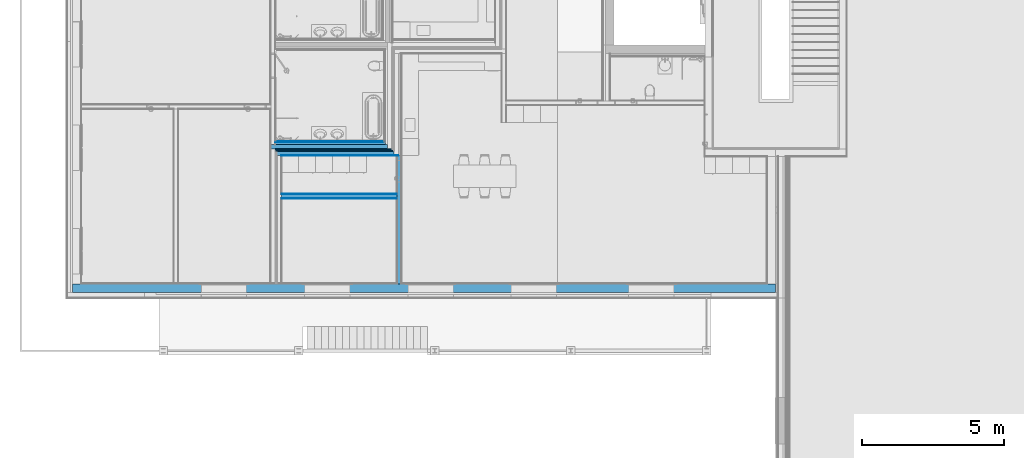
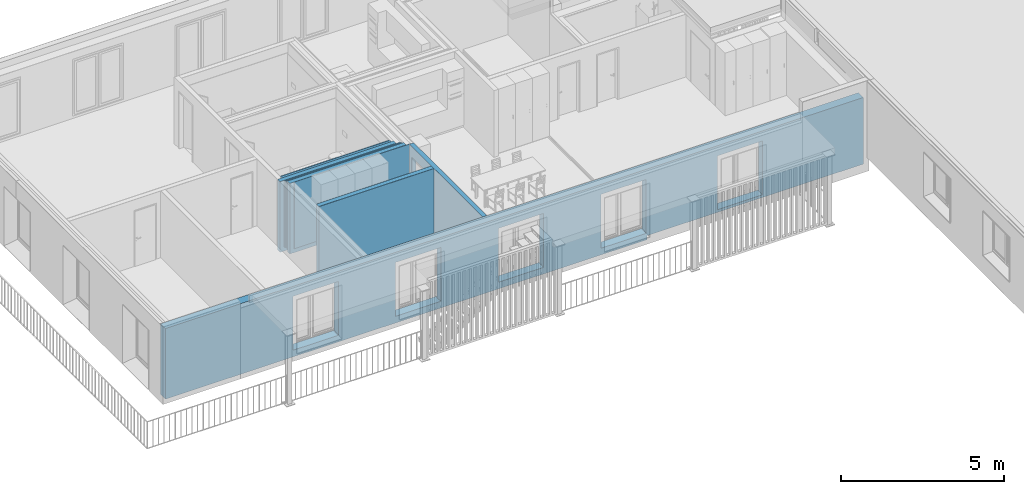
# One storey, part 5 of 34: 14 building element parts, 6 openings, 6 elements without a shape of their own.
"""IFC4 building model written with IfcOpenShell, lengths in millimetres."""

import ifcopenshell
import ifcopenshell.guid

model = None  # the IFC model being written
_history = None  # IfcOwnerHistory: only IFC2X3 demands one
_inside = {}  # id of a spatial element -> (the spatial element, [elements in it])
_under = {}  # id of a project, library or spatial element -> (it, [spatial elements below it])
_declared = {}  # id of a project -> (the project, [libraries it declares])
_typed = {}  # id of a type object -> (the type object, [elements of that type])
_made_of = {}  # id of a material, layer set ... -> (it, [elements and type objects made of it])


def new_model(schema):
    """Start an empty IFC model of exactly this schema.

    Asked for "IFC4X3", IfcOpenShell would pick the latest addendum, in which some entities
    have other attributes; the version numbers below select the first issue.
    IFC2X3 requires an IfcOwnerHistory on every rooted entity: one is made here for all.
    """
    global model, _history
    if schema == "IFC4X3":
        model = ifcopenshell.file(schema_version=(4, 3, 0, 0))
    else:
        model = ifcopenshell.file(schema=schema)
    _inside.clear()
    _under.clear()
    _declared.clear()
    _typed.clear()
    _made_of.clear()
    _history = None
    if model.schema == "IFC2X3":
        org = make("IfcOrganization", Name="unknown")
        user = make(
            "IfcPersonAndOrganization",
            ThePerson=make("IfcPerson", FamilyName="unknown"),
            TheOrganization=org,
        )
        app = make(
            "IfcApplication",
            ApplicationDeveloper=org,
            Version="unknown",
            ApplicationFullName="unknown",
            ApplicationIdentifier="unknown",
        )
        _history = make(
            "IfcOwnerHistory",
            OwningUser=user,
            OwningApplication=app,
            ChangeAction="ADDED",
            CreationDate=0,
        )
    return model


def make(cls, **values):
    """One entity of the class cls with the attributes given. An attribute that is None is left unset."""
    return model.create_entity(
        cls, **{name: value for name, value in values.items() if value is not None}
    )


def entity(cls, *values):
    """Any entity or typed value of the class cls, its attributes in the order of the schema. None: left unset."""
    e = model.create_entity(cls)
    for i, value in enumerate(values):
        if value is not None:
            e[i] = value
    return e


def rooted(cls, **values):
    """An entity with a GlobalId (a new one), such as an element, a storey or a relation."""
    return make(cls, GlobalId=ifcopenshell.guid.new(), OwnerHistory=_history, **values)


def si_unit(unit_type, name, prefix=None):
    """IfcSIUnit, for example si_unit("LENGTHUNIT", "METRE", prefix="MILLI")."""
    return make("IfcSIUnit", UnitType=unit_type, Prefix=prefix, Name=name)


def converted_unit(unit_type, name, factor, base, dimensions=None, offset=None):
    """IfcConversionBasedUnit, such as the inch: factor (a typed value) times the base unit."""
    return make(
        "IfcConversionBasedUnit"
        if offset is None
        else "IfcConversionBasedUnitWithOffset",
        ConversionOffset=offset,
        Dimensions=None
        if dimensions is None
        else entity("IfcDimensionalExponents", *dimensions),
        UnitType=unit_type,
        Name=name,
        ConversionFactor=make(
            "IfcMeasureWithUnit", ValueComponent=factor, UnitComponent=base
        ),
    )


def derived_unit(unit_type, elements):
    """IfcDerivedUnit: a product of units, each with its exponent."""
    return make(
        "IfcDerivedUnit",
        Elements=[
            make("IfcDerivedUnitElement", Unit=unit, Exponent=power)
            for unit, power in elements
        ],
        UnitType=unit_type,
    )


def assignment(units):
    """IfcUnitAssignment: the units of a project."""
    return None if units is None else make("IfcUnitAssignment", Units=units)


def point(xyz):
    """IfcCartesianPoint."""
    return None if xyz is None else make("IfcCartesianPoint", Coordinates=xyz)


def direction(xyz):
    """IfcDirection."""
    return None if xyz is None else make("IfcDirection", DirectionRatios=xyz)


def frame(location, z_axis=None, x_axis=None):
    """IfcAxis2Placement3D, a coordinate frame: its origin and axes. An axis left out is left unset."""
    return make(
        "IfcAxis2Placement3D",
        Location=point(location),
        Axis=direction(z_axis),
        RefDirection=direction(x_axis),
    )


def origin_with_axes():
    """The frame at (0, 0, 0) with the z axis (0, 0, 1) and the x axis (1, 0, 0) written out."""
    return frame((0.0, 0.0, 0.0), z_axis=(0.0, 0.0, 1.0), x_axis=(1.0, 0.0, 0.0))


def place(relative_to, where):
    """IfcLocalPlacement: puts the frame where relative to a parent placement (None: the world)."""
    return make(
        "IfcLocalPlacement", PlacementRelTo=relative_to, RelativePlacement=where
    )


def context(
    kind, dimensions, precision=None, world=None, true_north=None, identifier=None
):
    """IfcGeometricRepresentationContext, for example the 3D "Model" context."""
    return make(
        "IfcGeometricRepresentationContext",
        ContextIdentifier=identifier,
        ContextType=kind,
        CoordinateSpaceDimension=dimensions,
        Precision=precision,
        WorldCoordinateSystem=world,
        TrueNorth=true_north,
    )


def subcontext(parent, identifier, kind, view, scale=None):
    """IfcGeometricRepresentationSubContext, for example "Body" below "Model"."""
    return make(
        "IfcGeometricRepresentationSubContext",
        ContextIdentifier=identifier,
        ContextType=kind,
        ParentContext=parent,
        TargetScale=scale,
        TargetView=view,
    )


def project(units=None, contexts=None):
    """IfcProject with its units and contexts."""
    return rooted(
        "IfcProject",
        Name="project",
        RepresentationContexts=contexts,
        UnitsInContext=assignment(units),
    )


def spatial(cls, under=None, at=None, **own):
    """A site, building, storey or space (cls), placed at a placement, below another one or the project."""
    s = rooted(cls, ObjectPlacement=at, **own)
    if under is not None:
        _under.setdefault(under.id(), (under, []))[1].append(s)
    return s


def point_list(points):
    """IfcCartesianPointList2D or 3D."""
    cls = (
        "IfcCartesianPointList2D" if len(points[0]) == 2 else "IfcCartesianPointList3D"
    )
    return make(cls, CoordList=points)


def polygons(points, faces, closed=None, point_numbers=None):
    """IfcPolygonalFaceSet: a face is its outer loop, then its inner loops; points numbered from 1."""
    made = []
    for loops in faces:
        if len(loops) == 1:
            made.append(make("IfcIndexedPolygonalFace", CoordIndex=loops[0]))
        else:
            made.append(
                make(
                    "IfcIndexedPolygonalFaceWithVoids",
                    CoordIndex=loops[0],
                    InnerCoordIndices=loops[1:],
                )
            )
    return make(
        "IfcPolygonalFaceSet",
        Coordinates=point_list(points),
        Closed=closed,
        Faces=made,
        PnIndex=point_numbers,
    )


def shape(context_of_items, identifier, shape_type, items):
    """IfcShapeRepresentation: the items that make up one representation, for example the "Body"."""
    return make(
        "IfcShapeRepresentation",
        ContextOfItems=context_of_items,
        RepresentationIdentifier=identifier,
        RepresentationType=shape_type,
        Items=items,
    )


def material(Name=None, Category=None):
    """IfcMaterial."""
    return make("IfcMaterial", Name=Name, Category=Category)


def made_of(thing, what):
    """Note that an element or type object is made of a material, layer set ...; save() writes the relation."""
    if what is not None:
        _made_of.setdefault(what.id(), (what, []))[1].append(thing)
    return thing


def type_object(cls, material=None, **own):
    """A type object (cls), such as IfcWallType, which elements share."""
    return made_of(rooted(cls, **own), material)


def element(
    cls,
    number,
    at=None,
    inside=None,
    cuts=None,
    type_object=None,
    material=None,
    context=None,
    identifier="Body",
    shape_type=None,
    held_by="IfcProductDefinitionShape",
    body=None,
    shapes=None,
    **own,
):
    """One element of the class cls, such as IfcWall. Its Tag is "e" and its number.

    at: its placement. inside: the storey or other place that contains it. cuts: it is an
    opening in that element (IfcRelVoidsElement). A single representation is given by context,
    identifier, shape_type and body (its items); several are given by shapes. held_by: the class
    of the entity that holds the representations. save() writes the other relations.
    """
    e = rooted(cls, Tag="e%d" % number, ObjectPlacement=at, **own)
    if body is not None:
        shapes = [shape(context, identifier, shape_type, body)]
    if shapes is not None:
        e.Representation = make(held_by, Representations=shapes)
    if inside is not None:
        _inside.setdefault(inside.id(), (inside, []))[1].append(e)
    if cuts is not None:
        rooted(
            "IfcRelVoidsElement", RelatingBuildingElement=cuts, RelatedOpeningElement=e
        )
    if type_object is not None:
        _typed.setdefault(type_object.id(), (type_object, []))[1].append(e)
    return made_of(e, material)


def aggregate(whole, parts):
    """IfcRelAggregates: a whole, such as a stair, and the parts it consists of."""
    return rooted("IfcRelAggregates", RelatingObject=whole, RelatedObjects=parts)


def save(model, path):
    """Write the relations noted so far, then the file.

    IfcRelAggregates (storeys below a building ...), IfcRelContainedInSpatialStructure (elements
    in a storey), IfcRelDefinesByType, IfcRelAssociatesMaterial and IfcRelDeclares: one each for
    every whole, place, type object, material and project.
    """
    for whole, parts in _under.values():
        aggregate(whole, parts)
    for where, things in _inside.values():
        rooted(
            "IfcRelContainedInSpatialStructure",
            RelatedElements=things,
            RelatingStructure=where,
        )
    for kind, things in _typed.values():
        rooted("IfcRelDefinesByType", RelatedObjects=things, RelatingType=kind)
    for what, things in _made_of.values():
        rooted("IfcRelAssociatesMaterial", RelatedObjects=things, RelatingMaterial=what)
    for by, libraries in _declared.values():
        rooted("IfcRelDeclares", RelatingContext=by, RelatedDefinitions=libraries)
    model.write(path)


model = new_model("IFC4")

# Units and contexts
model_context = context("Model", 3, precision=0.01, world=origin_with_axes(), true_north=direction((0.0, 1.0)))
body_context = subcontext(model_context, "Body", "Model", "MODEL_VIEW")
ifc_project = project(units=[si_unit("LENGTHUNIT", "METRE", prefix="MILLI"), si_unit("AREAUNIT", "SQUARE_METRE"), si_unit("VOLUMEUNIT", "CUBIC_METRE"), converted_unit("PLANEANGLEUNIT", "DEGREE", entity("IfcPlaneAngleMeasure", 0.0174532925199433), si_unit("PLANEANGLEUNIT", "RADIAN"), dimensions=[0, 0, 0, 0, 0, 0, 0]), converted_unit("TIMEUNIT", "Year", entity("IfcTimeMeasure", 31557600.0), si_unit("TIMEUNIT", "SECOND"), dimensions=[0, 0, 1, 0, 0, 0, 0]), si_unit("MASSUNIT", "GRAM", prefix="KILO"), si_unit("THERMODYNAMICTEMPERATUREUNIT", "DEGREE_CELSIUS"), si_unit("LUMINOUSINTENSITYUNIT", "LUMEN"), si_unit("ENERGYUNIT", "JOULE", prefix="MEGA"), derived_unit("THERMALCONDUCTANCEUNIT", [(si_unit("POWERUNIT", "WATT"), 1), (si_unit("LENGTHUNIT", "METRE"), -1), (si_unit("THERMODYNAMICTEMPERATUREUNIT", "KELVIN"), -1)]), derived_unit("SPECIFICHEATCAPACITYUNIT", [(si_unit("ENERGYUNIT", "JOULE"), 1), (si_unit("MASSUNIT", "GRAM", prefix="KILO"), -1), (si_unit("THERMODYNAMICTEMPERATUREUNIT", "KELVIN"), -1)]), derived_unit("MASSDENSITYUNIT", [(si_unit("MASSUNIT", "GRAM", prefix="KILO"), 1), (si_unit("VOLUMEUNIT", "CUBIC_METRE"), -1)])], contexts=[model_context])

# Site, building, storey
site_placement = place(None, origin_with_axes())
site = spatial("IfcSite", under=ifc_project, at=site_placement, Name="Gelände", CompositionType="ELEMENT")
building_placement = place(site_placement, origin_with_axes())
building = spatial("IfcBuilding", under=site, at=building_placement, Name="Gebäude", CompositionType="ELEMENT")
storey_placement = place(building_placement, frame((0.0, 0.0, 5799.999999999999), z_axis=(0.0, 0.0, 1.0), x_axis=(1.0, 0.0, 0.0)))
storey = spatial("IfcBuildingStorey", under=building, at=storey_placement, Name="2.OG", CompositionType="ELEMENT", Elevation=5800.0)

# Wall, building element parts
wall_type_1 = type_object("IfcWallType", Name="Innenwand Typ 05 170", PredefinedType="NOTDEFINED")
wall_1_placement = place(storey_placement, frame((4740.995818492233, 26457.59674077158, 0.0), z_axis=(0.0, 0.0, 1.0), x_axis=(-1.0, 0.0, 0.0)))
wall_1 = element("IfcWall", 1, at=wall_1_placement, inside=storey, type_object=wall_type_1, Name="Wand-014", PredefinedType="NOTDEFINED")
ifc_material_1 = material(Name="Kalkzementputz Aussen")
building_element_part_1_placement = place(wall_1_placement, origin_with_axes())
building_element_part_1 = element("IfcBuildingElementPart", 2, at=building_element_part_1_placement, material=ifc_material_1, Name="Kalkzementputz Aussen", PredefinedType="NOTDEFINED", context=body_context, shape_type="Tessellation", body=[
    polygons([(169.9999999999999, 0.0, 150.0000000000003), (169.9999999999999, -10.00000000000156, 150.0000000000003), (169.9999999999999, -10.00000000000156, 2649.999948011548), (169.9999999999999, 0.0, 2649.999948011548), (4238.00001840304, -10.00000000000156, 150.0000000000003), (4238.00001840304, 0.0, 150.0000000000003), (4238.00001840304, -10.00000000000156, 2649.999948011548), (4238.00001840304, 0.0, 2649.999948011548)], [[[1, 2, 3, 4]], [[5, 2, 1, 6]], [[2, 5, 7, 3]], [[7, 8, 4, 3]], [[6, 1, 4, 8]], [[5, 6, 8, 7]]], closed=True),
])
building_element_part_2_placement = place(wall_1_placement, origin_with_axes())
building_element_part_2 = element("IfcBuildingElementPart", 3, at=building_element_part_2_placement, material=ifc_material_1, Name="Kalkzementputz Aussen", PredefinedType="NOTDEFINED", context=body_context, shape_type="Tessellation", body=[
    polygons([(169.999999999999, -160.0000000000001, 150.0000000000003), (169.999999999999, -170.0000000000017, 150.0000000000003), (169.999999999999, -169.9999999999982, 2649.999948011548), (169.999999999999, -160.0000000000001, 2649.999948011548), (4238.00001840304, -170.0000000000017, 150.0000000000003), (4238.00001840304, -160.0000000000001, 150.0000000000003), (4238.00001840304, -170.0000000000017, 2649.999948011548), (4238.00001840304, -160.0000000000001, 2649.999948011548)], [[[1, 2, 3, 4]], [[5, 2, 1, 6]], [[2, 5, 7, 3]], [[7, 8, 4, 3]], [[6, 1, 4, 8]], [[5, 6, 8, 7]]], closed=True),
])
ifc_material_2 = material(Name="MW, Backstein")
building_element_part_3_placement = place(wall_1_placement, origin_with_axes())
building_element_part_3 = element("IfcBuildingElementPart", 4, at=building_element_part_3_placement, material=ifc_material_2, Name="MW, Backstein", PredefinedType="NOTDEFINED", context=body_context, shape_type="Tessellation", body=[
    polygons([(4248.00001840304, -10.00000000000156, 2649.999948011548), (160.0000000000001, -10.00000000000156, 2649.999948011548), (159.9999999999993, -160.0000000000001, 2649.999948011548), (4248.00001840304, -160.0000000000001, 2649.999948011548), (4248.00001840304, -10.00000000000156, 0.0), (160.0000000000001, -10.00000000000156, 0.0), (159.9999999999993, -160.0000000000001, 0.0), (4248.00001840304, -160.0000000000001, 0.0)], [[[1, 2, 3, 4]], [[5, 6, 2, 1]], [[3, 2, 6, 7]], [[4, 3, 7, 8]], [[4, 8, 5, 1]], [[8, 7, 6, 5]]], closed=True),
])
aggregate(wall_1, [building_element_part_1, building_element_part_2, building_element_part_3])

wall_type_2 = type_object("IfcWallType", Name="Trennwand Typ 02 - kein Putz 190", PredefinedType="NOTDEFINED")
wall_2_placement = place(storey_placement, frame((4245.995818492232, 28364.37338563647, 0.0), z_axis=(0.0, 0.0, 1.0), x_axis=(-1.0, 0.0, 0.0)))
wall_2 = element("IfcWall", 5, at=wall_2_placement, inside=storey, type_object=wall_type_2, Name="Wand-015", PredefinedType="NOTDEFINED")
ifc_material_3 = material(Name="Dämmung Innen")
building_element_part_4_placement = place(wall_2_placement, origin_with_axes())
building_element_part_4 = element("IfcBuildingElementPart", 6, at=building_element_part_4_placement, material=ifc_material_3, Name="Dämmung Innen", PredefinedType="NOTDEFINED", context=body_context, shape_type="Tessellation", body=[
    polygons([(-150.0000000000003, 190.0000000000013, 150.0000000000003), (-150.0000000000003, 149.9999999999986, 150.0000000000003), (-150.0000000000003, 149.9999999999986, 2649.999948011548), (-150.0000000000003, 190.0000000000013, 2649.999948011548), (3973.000000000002, 149.9999999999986, 150.0000000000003), (3973.000000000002, 190.0000000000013, 150.0000000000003), (3973.000000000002, 149.9999999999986, 2649.999948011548), (3973.000000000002, 190.0000000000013, 2649.999948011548)], [[[1, 2, 3, 4]], [[5, 2, 1, 6]], [[2, 5, 7, 3]], [[7, 8, 4, 3]], [[6, 1, 4, 8]], [[5, 6, 8, 7]]], closed=True),
])
building_element_part_5_placement = place(wall_2_placement, origin_with_axes())
building_element_part_5 = element("IfcBuildingElementPart", 7, at=building_element_part_5_placement, material=ifc_material_2, Name="MW, Backstein", PredefinedType="NOTDEFINED", context=body_context, shape_type="Tessellation", body=[
    polygons([(4123.000000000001, 149.9999999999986, 0.0), (4123.000000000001, 0.0, 0.0), (0.0, 0.0, 0.0), (0.0, 149.9999999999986, 0.0), (4123.000000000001, 149.9999999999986, 2649.999948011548), (4123.000000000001, 0.0, 2649.999948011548), (0.0, 0.0, 2649.999948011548), (0.0, 149.9999999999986, 2649.999948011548)], [[[1, 2, 3, 4]], [[2, 1, 5, 6]], [[2, 6, 7, 3]], [[8, 4, 3, 7]], [[5, 1, 4, 8]], [[6, 5, 8, 7]]], closed=True),
])
aggregate(wall_2, [building_element_part_4, building_element_part_5])

wall_type_3 = type_object("IfcWallType", Name="Trennwand Typ 03 - verputzt 200", PredefinedType="NOTDEFINED")
wall_3_placement = place(storey_placement, frame((4625.995818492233, 27984.37338563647, 0.0), z_axis=(0.0, 0.0, 1.0), x_axis=(-1.0, 0.0, 0.0)))
wall_3 = element("IfcWall", 8, at=wall_3_placement, inside=storey, type_object=wall_type_3, Name="Wand-014", PredefinedType="NOTDEFINED")
building_element_part_6_placement = place(wall_3_placement, origin_with_axes())
building_element_part_6 = element("IfcBuildingElementPart", 9, at=building_element_part_6_placement, material=ifc_material_1, Name="Kalkzementputz Aussen", PredefinedType="NOTDEFINED", context=body_context, shape_type="Tessellation", body=[
    polygons([(0.0, 10.00000000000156, 150.0000000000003), (0.0, 0.0, 150.0000000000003), (0.0, 0.0, 2649.999948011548), (0.0, 10.00000000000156, 2649.999948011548), (4133.00001840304, 0.0, 150.0000000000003), (4133.00001840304, 9.99999999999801, 150.0000000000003), (4133.00001840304, 0.0, 2649.999948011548), (4133.00001840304, 10.00000000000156, 2649.999948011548)], [[[1, 2, 3, 4]], [[5, 2, 1, 6]], [[2, 5, 7, 3]], [[7, 8, 4, 3]], [[6, 1, 4, 8]], [[5, 6, 8, 7]]], closed=True),
])
building_element_part_7_placement = place(wall_3_placement, origin_with_axes())
building_element_part_7 = element("IfcBuildingElementPart", 10, at=building_element_part_7_placement, material=ifc_material_2, Name="MW, Backstein", PredefinedType="NOTDEFINED", context=body_context, shape_type="Tessellation", body=[
    polygons([(4283.000018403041, 0.0, 2649.999948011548), (150.0000000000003, 0.0, 2649.999948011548), (150.0000000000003, -149.9999999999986, 2649.999948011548), (4283.000018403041, -149.9999999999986, 2649.999948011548), (4283.000018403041, 0.0, 0.0), (150.0000000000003, 0.0, 0.0), (150.0000000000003, -149.9999999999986, 0.0), (4283.000018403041, -149.9999999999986, 0.0)], [[[1, 2, 3, 4]], [[5, 6, 2, 1]], [[3, 2, 6, 7]], [[4, 3, 7, 8]], [[4, 8, 5, 1]], [[8, 7, 6, 5]]], closed=True),
])
building_element_part_8_placement = place(wall_3_placement, origin_with_axes())
building_element_part_8 = element("IfcBuildingElementPart", 11, at=building_element_part_8_placement, material=ifc_material_3, Name="Dämmung Innen", PredefinedType="NOTDEFINED", context=body_context, shape_type="Tessellation", body=[
    polygons([(190.0000000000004, -149.9999999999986, 150.0000000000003), (190.0000000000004, -190.0000000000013, 150.0000000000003), (190.0000000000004, -190.0000000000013, 2649.999948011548), (190.0000000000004, -149.9999999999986, 2649.999948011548), (4323.000018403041, -190.0000000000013, 150.0000000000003), (4323.000018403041, -149.9999999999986, 150.0000000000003), (4323.000018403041, -190.0000000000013, 2649.999948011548), (4323.000018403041, -149.9999999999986, 2649.999948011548)], [[[1, 2, 3, 4]], [[5, 2, 1, 6]], [[2, 5, 7, 3]], [[7, 8, 4, 3]], [[6, 1, 4, 8]], [[5, 6, 8, 7]]], closed=True),
])
aggregate(wall_3, [building_element_part_6, building_element_part_7, building_element_part_8])

# Wall, opening, building element part
wall_4_placement = place(storey_placement, frame((4740.995818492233, 27974.37338563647, 0.0), z_axis=(0.0, 0.0, 1.0), x_axis=(0.0, -1.0, 0.0)))
wall_4 = element("IfcWall", 12, at=wall_4_placement, inside=storey, type_object=wall_type_1, Name="Wand-014", PredefinedType="NOTDEFINED")
opening_1_placement = place(wall_4_placement, frame((550.0000000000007, 0.0, 150.0000000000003), z_axis=(0.0, 0.0, 1.0), x_axis=(1.0, 0.0, 0.0)))
element("IfcOpeningElement", 13, at=opening_1_placement, cuts=wall_4, Name="Tür-011", context=body_context, identifier="Reference", shape_type="Tessellation", body=[
    polygons([(-399.9999999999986, -171.0000000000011, 2100.0), (-399.9999999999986, -171.0000000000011, -150.0000000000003), (399.9999999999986, -171.0000000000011, -150.0000000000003), (399.9999999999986, -171.0000000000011, 2100.0), (-399.9999999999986, 1.000000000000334, 2100.0), (-399.9999999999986, 1.000000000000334, -150.0000000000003), (399.9999999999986, 1.000000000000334, -150.0000000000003), (399.9999999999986, 1.000000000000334, 2100.0)], [[[1, 2, 3, 4]], [[5, 6, 2, 1]], [[6, 7, 3, 2]], [[7, 8, 4, 3]], [[8, 5, 1, 4]], [[7, 6, 5, 8]]], closed=True),
])
building_element_part_9_placement = place(wall_4_placement, origin_with_axes())
building_element_part_9 = element("IfcBuildingElementPart", 14, at=building_element_part_9_placement, material=ifc_material_2, Name="MW, Backstein", PredefinedType="NOTDEFINED", context=body_context, shape_type="Tessellation", body=[
    polygons([(949.9999999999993, -10.00000000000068, 150.0000000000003), (949.9999999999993, -9.999999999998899, 2250.0), (150.0000000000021, -9.999999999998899, 2250.0), (150.0000000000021, -10.00000000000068, 150.0000000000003), (150.0000000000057, -9.999999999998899, 0.0), (0.0, -9.999999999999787, 0.0), (0.0, -9.999999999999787, 2649.999948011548), (4516.776644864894, -9.999999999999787, 2649.999948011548), (4516.776644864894, -9.999999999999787, 0.0), (950.0000000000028, -9.999999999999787, 0.0), (949.9999999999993, -159.9999999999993, 150.0000000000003), (949.9999999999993, -160.0000000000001, 2250.0), (150.0000000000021, -160.0000000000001, 2250.0), (150.0000000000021, -159.9999999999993, 150.0000000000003), (150.0000000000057, -160.0000000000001, 0.0), (0.0, -160.0000000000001, 0.0), (0.0, -160.0000000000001, 2649.999948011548), (4516.776644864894, -159.9999999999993, 2649.999948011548), (4516.776644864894, -160.0000000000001, 0.0), (950.0000000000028, -160.0000000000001, 0.0)], [[[1, 2, 3, 4, 5, 6, 7, 8, 9, 10]], [[2, 1, 11, 12]], [[3, 2, 12, 13]], [[4, 3, 13, 14]], [[4, 14, 15, 5]], [[15, 16, 6, 5]], [[17, 7, 6, 16]], [[8, 7, 17, 18]], [[18, 19, 9, 8]], [[10, 9, 19, 20]], [[11, 1, 10, 20]], [[12, 11, 20, 19, 18, 17, 16, 15, 14, 13]]], closed=True),
])
aggregate(wall_4, [building_element_part_9])

# Wall, building element parts
wall_type_4 = type_object("IfcWallType", Name="Vorsatzschale 01 115", PredefinedType="NOTDEFINED")
wall_5_placement = place(storey_placement, frame((4130.995818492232, 28479.37338563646, 0.0), z_axis=(0.0, 0.0, 1.0), x_axis=(-1.0, 0.0, 0.0)))
wall_5 = element("IfcWall", 15, at=wall_5_placement, inside=storey, type_object=wall_type_4, Name="Wand-015", PredefinedType="NOTDEFINED")
ifc_material_4 = material(Name="Ständer Konstruktion gedämmt")
building_element_part_10_placement = place(wall_5_placement, origin_with_axes())
building_element_part_10 = element("IfcBuildingElementPart", 16, at=building_element_part_10_placement, material=ifc_material_4, Name="Ständer Konstruktion gedämmt", PredefinedType="NOTDEFINED", context=body_context, shape_type="Tessellation", body=[
    polygons([(3848.000000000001, 114.9999999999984, 0.0), (3848.000000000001, 35.00000000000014, 0.0), (-35.00000000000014, 35.00000000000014, 0.0), (-35.00000000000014, 114.9999999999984, 0.0), (3848.000000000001, 114.9999999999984, 2649.999948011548), (3848.000000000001, 35.00000000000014, 2649.999948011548), (-35.00000000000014, 35.00000000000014, 2649.999948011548), (-35.00000000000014, 114.9999999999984, 2649.999948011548)], [[[1, 2, 3, 4]], [[1, 5, 6, 2]], [[2, 6, 7, 3]], [[4, 3, 7, 8]], [[5, 1, 4, 8]], [[6, 5, 8, 7]]], closed=True),
])
ifc_material_5 = material(Name="Gipskartonplatte GKP")
building_element_part_11_placement = place(wall_5_placement, origin_with_axes())
building_element_part_11 = element("IfcBuildingElementPart", 17, at=building_element_part_11_placement, material=ifc_material_5, Name="Gipskartonplatte GKP", PredefinedType="NOTDEFINED", context=body_context, shape_type="Tessellation", body=[
    polygons([(3848.000000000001, 22.50000000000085, 0.0), (3848.000000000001, 9.99999999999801, 0.0), (-9.999999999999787, 10.00000000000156, 0.0), (-9.999999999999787, 22.50000000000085, 0.0), (3848.000000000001, 22.50000000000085, 2649.999948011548), (3848.000000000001, 10.00000000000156, 2649.999948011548), (-9.999999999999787, 10.00000000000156, 2649.999948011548), (-9.999999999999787, 22.50000000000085, 2649.999948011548)], [[[1, 2, 3, 4]], [[1, 5, 6, 2]], [[2, 6, 7, 3]], [[4, 3, 7, 8]], [[5, 1, 4, 8]], [[6, 5, 8, 7]]], closed=True),
])
building_element_part_12_placement = place(wall_5_placement, origin_with_axes())
building_element_part_12 = element("IfcBuildingElementPart", 18, at=building_element_part_12_placement, material=ifc_material_5, Name="Gipskartonplatte GKP", PredefinedType="NOTDEFINED", context=body_context, shape_type="Tessellation", body=[
    polygons([(3848.000000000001, 35.00000000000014, 0.0), (3848.000000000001, 22.50000000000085, 0.0), (-22.49999999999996, 22.50000000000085, 0.0), (-22.49999999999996, 35.00000000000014, 0.0), (3848.000000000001, 35.00000000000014, 2649.999948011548), (3848.000000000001, 22.50000000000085, 2649.999948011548), (-22.49999999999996, 22.50000000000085, 2649.999948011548), (-22.49999999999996, 35.00000000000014, 2649.999948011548)], [[[1, 2, 3, 4]], [[1, 5, 6, 2]], [[2, 6, 7, 3]], [[4, 3, 7, 8]], [[5, 1, 4, 8]], [[6, 5, 8, 7]]], closed=True),
])
building_element_part_13_placement = place(wall_5_placement, origin_with_axes())
building_element_part_13 = element("IfcBuildingElementPart", 19, at=building_element_part_13_placement, material=ifc_material_1, Name="Kalkzementputz Aussen", PredefinedType="NOTDEFINED", context=body_context, shape_type="Tessellation", body=[
    polygons([(3848.000000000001, 9.99999999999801, 0.0), (3848.000000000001, 0.0, 0.0), (0.0, 0.0, 0.0), (0.0, 10.00000000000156, 0.0), (3848.000000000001, 10.00000000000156, 2649.999948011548), (3848.000000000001, 0.0, 2649.999948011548), (0.0, 0.0, 2649.999948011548), (0.0, 10.00000000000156, 2649.999948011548)], [[[1, 2, 3, 4]], [[1, 5, 6, 2]], [[2, 6, 7, 3]], [[4, 3, 7, 8]], [[5, 1, 4, 8]], [[6, 5, 8, 7]]], closed=True),
])
aggregate(wall_5, [building_element_part_10, building_element_part_11, building_element_part_12, building_element_part_13])

# Wall, openings, building element part
wall_type_5 = type_object("IfcWallType", Name="Aussenwand Typ 06 310", PredefinedType="NOTDEFINED")
wall_6_placement = place(storey_placement, frame((-6861.004181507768, 23157.59674077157, 0.0), z_axis=(0.0, 0.0, 1.0), x_axis=(1.0, 0.0, 0.0)))
wall_6 = element("IfcWall", 20, at=wall_6_placement, inside=storey, type_object=wall_type_5, Name="Wand-014", PredefinedType="NOTDEFINED")
opening_2_placement = place(wall_6_placement, frame((8976.0, 0.0, 309.999948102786), z_axis=(0.0, 0.0, 1.0), x_axis=(1.0, 0.0, 0.0)))
element("IfcOpeningElement", 21, at=opening_2_placement, cuts=wall_6, Name="Fenster-004", context=body_context, identifier="Reference", shape_type="Tessellation", body=[
    polygons([(-800.0, 0.0, 1961.999999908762), (800.0000000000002, 0.0, 1961.999999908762), (800.0000000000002, -1.000000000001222, 1961.999999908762), (802.0, -1.000000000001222, 1961.999999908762), (802.0, 250.0, 1961.999999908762), (-802.0, 250.0, 1961.999999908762), (-802.0, -1.000000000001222, 1961.999999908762), (-800.0, -1.000000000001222, 1961.999999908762), (-800.0, 0.0, 2249.999999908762), (800.0000000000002, 0.0, 2249.999999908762), (800.0000000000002, -149.9999999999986, 2249.999999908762), (800.0000000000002, -149.9999999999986, 1959.999999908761), (800.0000000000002, -1.000000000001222, 1959.999999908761), (-800.0, -1.000000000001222, 1959.999999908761), (-802.0, -1.000000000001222, -59.99999999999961), (802.0, -1.000000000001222, -59.99999999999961), (802.0, 250.0, -59.99999999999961), (902.0000000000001, 250.0, -59.99999999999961), (902.0000000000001, 250.0, 2061.999999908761), (-902.0000000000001, 250.0, 2061.999999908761), (-902.0000000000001, 250.0, -59.99999999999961), (-802.0000000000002, 250.0, -59.99999999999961), (-800.0, -149.9999999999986, 1959.999999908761), (-800.0, -149.9999999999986, 2249.999999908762), (-902.0000000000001, 310.9999999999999, -59.99999999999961), (902.0000000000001, 310.9999999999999, -59.99999999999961), (902.0000000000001, 310.9999999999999, 2061.999999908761), (-902.0000000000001, 310.9999999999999, 2061.999999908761)], [[[1, 2, 3, 4, 5, 6, 7, 8]], [[2, 1, 9, 10]], [[3, 2, 10, 11, 12, 13]], [[14, 8, 7, 15, 16, 4, 3, 13]], [[17, 5, 4, 16]], [[6, 5, 17, 18, 19, 20, 21, 22]], [[6, 22, 15, 7]], [[1, 8, 14, 23, 24, 9]], [[9, 24, 11, 10]], [[24, 23, 12, 11]], [[14, 13, 12, 23]], [[22, 17, 16, 15]], [[17, 22, 21, 25, 26, 18]], [[19, 18, 26, 27]], [[20, 19, 27, 28]], [[21, 20, 28, 25]], [[27, 26, 25, 28]]], closed=True),
])
opening_3_placement = place(wall_6_placement, frame((5334.0, 0.0, 309.999948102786), z_axis=(0.0, 0.0, 1.0), x_axis=(1.0, 0.0, 0.0)))
element("IfcOpeningElement", 22, at=opening_3_placement, cuts=wall_6, Name="Fenster-004", context=body_context, identifier="Reference", shape_type="Tessellation", body=[
    polygons([(-800.0000000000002, 0.0, 1961.999999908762), (800.0000000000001, 0.0, 1961.999999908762), (800.0, -1.000000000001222, 1961.999999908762), (802.0000000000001, -1.000000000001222, 1961.999999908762), (802.0000000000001, 250.0, 1961.999999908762), (-802.0, 250.0, 1961.999999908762), (-802.0, -1.000000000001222, 1961.999999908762), (-800.0000000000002, -1.000000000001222, 1961.999999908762), (-800.0000000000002, 0.0, 2249.999999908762), (800.0000000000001, 0.0, 2249.999999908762), (800.0000000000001, -149.9999999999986, 2249.999999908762), (800.0000000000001, -149.9999999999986, 1959.999999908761), (800.0000000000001, -1.000000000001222, 1959.999999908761), (-800.0000000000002, -1.000000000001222, 1959.999999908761), (-802.0, -1.000000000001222, -59.99999999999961), (802.0000000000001, -1.000000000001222, -59.99999999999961), (802.0000000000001, 250.0, -59.99999999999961), (902.0000000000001, 250.0, -59.99999999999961), (902.0000000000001, 250.0, 2061.999999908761), (-902.0000000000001, 250.0, 2061.999999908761), (-902.0000000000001, 250.0, -59.99999999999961), (-802.0, 250.0, -59.99999999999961), (-800.0000000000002, -149.9999999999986, 1959.999999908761), (-800.0000000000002, -149.9999999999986, 2249.999999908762), (-902.0000000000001, 310.9999999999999, -59.99999999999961), (902.0000000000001, 310.9999999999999, -59.99999999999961), (902.0000000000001, 310.9999999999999, 2061.999999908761), (-902.0000000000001, 310.9999999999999, 2061.999999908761)], [[[1, 2, 3, 4, 5, 6, 7, 8]], [[2, 1, 9, 10]], [[3, 2, 10, 11, 12, 13]], [[14, 8, 7, 15, 16, 4, 3, 13]], [[17, 5, 4, 16]], [[6, 5, 17, 18, 19, 20, 21, 22]], [[6, 22, 15, 7]], [[1, 8, 14, 23, 24, 9]], [[9, 24, 11, 10]], [[24, 23, 12, 11]], [[14, 13, 12, 23]], [[22, 17, 16, 15]], [[17, 22, 21, 25, 26, 18]], [[19, 18, 26, 27]], [[20, 19, 27, 28]], [[21, 20, 28, 25]], [[27, 26, 25, 28]]], closed=True),
])
opening_4_placement = place(wall_6_placement, frame((12618.0, 0.0, 309.999948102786), z_axis=(0.0, 0.0, 1.0), x_axis=(1.0, 0.0, 0.0)))
element("IfcOpeningElement", 23, at=opening_4_placement, cuts=wall_6, Name="Fenster-004", context=body_context, identifier="Reference", shape_type="Tessellation", body=[
    polygons([(-800.0000000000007, 0.0, 1961.999999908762), (799.9999999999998, 0.0, 1961.999999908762), (799.9999999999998, -1.000000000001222, 1961.999999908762), (802.0000000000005, -1.000000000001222, 1961.999999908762), (802.0000000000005, 250.0, 1961.999999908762), (-802.0000000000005, 250.0, 1961.999999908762), (-802.0000000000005, -1.000000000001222, 1961.999999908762), (-800.0000000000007, -1.000000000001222, 1961.999999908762), (-800.0000000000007, 0.0, 2249.999999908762), (799.9999999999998, 0.0, 2249.999999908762), (799.9999999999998, -149.9999999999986, 2249.999999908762), (799.9999999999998, -149.9999999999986, 1959.999999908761), (799.9999999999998, -1.000000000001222, 1959.999999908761), (-800.0000000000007, -1.000000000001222, 1959.999999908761), (-802.0000000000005, -1.000000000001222, -59.99999999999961), (802.0000000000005, -1.000000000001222, -59.99999999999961), (802.0000000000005, 250.0, -59.99999999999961), (902.0000000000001, 250.0, -59.99999999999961), (902.0000000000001, 250.0, 2061.999999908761), (-902.0000000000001, 250.0, 2061.999999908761), (-902.0000000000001, 250.0, -59.99999999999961), (-802.0000000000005, 250.0, -59.99999999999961), (-800.0000000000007, -149.9999999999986, 1959.999999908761), (-800.0000000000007, -149.9999999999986, 2249.999999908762), (-902.0000000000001, 310.9999999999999, -59.99999999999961), (902.0000000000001, 310.9999999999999, -59.99999999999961), (902.0000000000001, 310.9999999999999, 2061.999999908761), (-902.0000000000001, 310.9999999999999, 2061.999999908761)], [[[1, 2, 3, 4, 5, 6, 7, 8]], [[2, 1, 9, 10]], [[3, 2, 10, 11, 12, 13]], [[14, 8, 7, 15, 16, 4, 3, 13]], [[17, 5, 4, 16]], [[6, 5, 17, 18, 19, 20, 21, 22]], [[6, 22, 15, 7]], [[1, 8, 14, 23, 24, 9]], [[9, 24, 11, 10]], [[24, 23, 12, 11]], [[14, 13, 12, 23]], [[22, 17, 16, 15]], [[17, 22, 21, 25, 26, 18]], [[19, 18, 26, 27]], [[20, 19, 27, 28]], [[21, 20, 28, 25]], [[27, 26, 25, 28]]], closed=True),
])
opening_5_placement = place(wall_6_placement, frame((20402.0, 0.0, 309.999948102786), z_axis=(0.0, 0.0, 1.0), x_axis=(1.0, 0.0, 0.0)))
element("IfcOpeningElement", 24, at=opening_5_placement, cuts=wall_6, Name="Fenster-004", context=body_context, identifier="Reference", shape_type="Tessellation", body=[
    polygons([(-799.999999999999, 0.0, 1961.999999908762), (800.0000000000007, 0.0, 1961.999999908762), (800.0000000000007, -1.000000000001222, 1961.999999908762), (801.9999999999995, -1.000000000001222, 1961.999999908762), (801.9999999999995, 250.0, 1961.999999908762), (-801.9999999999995, 250.0, 1961.999999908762), (-801.9999999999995, -1.000000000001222, 1961.999999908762), (-799.999999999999, -1.000000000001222, 1961.999999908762), (-799.999999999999, 0.0, 2249.999999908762), (800.0000000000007, 0.0, 2249.999999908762), (800.0000000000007, -149.9999999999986, 2249.999999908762), (800.0000000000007, -149.9999999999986, 1959.999999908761), (800.0000000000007, -1.000000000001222, 1959.999999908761), (-799.999999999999, -1.000000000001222, 1959.999999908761), (-801.9999999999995, -1.000000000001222, -59.99999999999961), (801.9999999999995, -1.000000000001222, -59.99999999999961), (801.9999999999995, 250.0, -59.99999999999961), (901.9999999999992, 250.0, -59.99999999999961), (901.9999999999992, 250.0, 2061.999999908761), (-901.9999999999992, 250.0, 2061.999999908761), (-901.9999999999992, 250.0, -59.99999999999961), (-801.9999999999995, 250.0, -59.99999999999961), (-799.999999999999, -149.9999999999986, 1959.999999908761), (-799.999999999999, -149.9999999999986, 2249.999999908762), (-901.9999999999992, 310.9999999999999, -59.99999999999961), (901.9999999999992, 310.9999999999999, -59.99999999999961), (901.9999999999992, 310.9999999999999, 2061.999999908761), (-901.9999999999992, 310.9999999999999, 2061.999999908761)], [[[1, 2, 3, 4, 5, 6, 7, 8]], [[2, 1, 9, 10]], [[3, 2, 10, 11, 12, 13]], [[14, 8, 7, 15, 16, 4, 3, 13]], [[17, 5, 4, 16]], [[6, 5, 17, 18, 19, 20, 21, 22]], [[6, 22, 15, 7]], [[1, 8, 14, 23, 24, 9]], [[9, 24, 11, 10]], [[24, 23, 12, 11]], [[14, 13, 12, 23]], [[22, 17, 16, 15]], [[17, 22, 21, 25, 26, 18]], [[19, 18, 26, 27]], [[20, 19, 27, 28]], [[21, 20, 28, 25]], [[27, 26, 25, 28]]], closed=True),
])
opening_6_placement = place(wall_6_placement, frame((16260.0, 0.0, 309.999948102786), z_axis=(0.0, 0.0, 1.0), x_axis=(1.0, 0.0, 0.0)))
element("IfcOpeningElement", 25, at=opening_6_placement, cuts=wall_6, Name="Fenster-004", context=body_context, identifier="Reference", shape_type="Tessellation", body=[
    polygons([(-799.999999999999, 0.0, 1961.999999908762), (800.0000000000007, 0.0, 1961.999999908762), (800.0000000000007, -1.000000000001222, 1961.999999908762), (801.9999999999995, -1.000000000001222, 1961.999999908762), (801.9999999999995, 250.0, 1961.999999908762), (-801.9999999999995, 250.0, 1961.999999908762), (-801.9999999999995, -1.000000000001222, 1961.999999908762), (-799.999999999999, -1.000000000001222, 1961.999999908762), (-799.999999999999, 0.0, 2249.999999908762), (800.0000000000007, 0.0, 2249.999999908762), (800.0000000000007, -149.9999999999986, 2249.999999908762), (800.0000000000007, -149.9999999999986, 1959.999999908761), (800.0000000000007, -1.000000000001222, 1959.999999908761), (-799.999999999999, -1.000000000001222, 1959.999999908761), (-801.9999999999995, -1.000000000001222, -59.99999999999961), (801.9999999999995, -1.000000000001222, -59.99999999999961), (801.9999999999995, 250.0, -59.99999999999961), (901.9999999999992, 250.0, -59.99999999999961), (901.9999999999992, 250.0, 2061.999999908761), (-901.9999999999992, 250.0, 2061.999999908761), (-901.9999999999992, 250.0, -59.99999999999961), (-801.9999999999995, 250.0, -59.99999999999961), (-799.999999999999, -149.9999999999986, 1959.999999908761), (-799.999999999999, -149.9999999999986, 2249.999999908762), (-901.9999999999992, 310.9999999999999, -59.99999999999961), (901.9999999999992, 310.9999999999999, -59.99999999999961), (901.9999999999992, 310.9999999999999, 2061.999999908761), (-901.9999999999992, 310.9999999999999, 2061.999999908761)], [[[1, 2, 3, 4, 5, 6, 7, 8]], [[2, 1, 9, 10]], [[3, 2, 10, 11, 12, 13]], [[14, 8, 7, 15, 16, 4, 3, 13]], [[17, 5, 4, 16]], [[6, 5, 17, 18, 19, 20, 21, 22]], [[6, 22, 15, 7]], [[1, 8, 14, 23, 24, 9]], [[9, 24, 11, 10]], [[24, 23, 12, 11]], [[14, 13, 12, 23]], [[22, 17, 16, 15]], [[17, 22, 21, 25, 26, 18]], [[19, 18, 26, 27]], [[20, 19, 27, 28]], [[21, 20, 28, 25]], [[27, 26, 25, 28]]], closed=True),
])
ifc_material_6 = material(Name="Beton bewehrt")
building_element_part_14_placement = place(wall_6_placement, origin_with_axes())
building_element_part_14 = element("IfcBuildingElementPart", 26, at=building_element_part_14_placement, material=ifc_material_6, Name="Beton bewehrt", PredefinedType="NOTDEFINED", context=body_context, shape_type="Tessellation", body=[
    polygons([(19600.0, 250.0, 2271.999948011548), (21204.0, 250.0, 2271.999948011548), (21204.0, 0.0, 2271.999948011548), (19600.0, 0.0, 2271.999948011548), (21204.0, 250.0, 249.9999481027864), (19600.0, 250.0, 249.9999481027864), (19500.0, 250.0, 249.9999481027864), (19500.0, 250.0, 2371.999948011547), (21304.0, 250.0, 2371.999948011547), (21304.0, 250.0, 249.9999481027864), (21204.0, 0.0, 249.9999481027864), (17090.00162627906, 0.0, 150.0000000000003), (24781.00162627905, 0.0, 150.0000000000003), (24781.00161882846, 0.0, 2650.0), (0.0, 0.0, 2650.0), (0.0, 0.0, 0.0), (17090.00162627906, 0.0, 0.0), (4531.999999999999, 0.0, 2271.999948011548), (6136.0, 0.0, 2271.999948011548), (6136.0, 0.0, 249.9999481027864), (4531.999999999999, 0.0, 249.9999481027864), (9777.999999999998, 0.0, 249.9999481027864), (8173.999999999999, 0.0, 249.9999481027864), (8173.999999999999, 0.0, 2271.999948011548), (9777.999999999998, 0.0, 2271.999948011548), (11816.0, 0.0, 2271.999948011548), (13420.0, 0.0, 2271.999948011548), (13420.0, 0.0, 249.9999481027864), (11816.0, 0.0, 249.9999481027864), (17062.0, 0.0, 249.9999481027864), (15458.0, 0.0, 249.9999481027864), (15458.0, 0.0, 2271.999948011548), (17062.0, 0.0, 2271.999948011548), (19600.0, 0.0, 249.9999481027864), (21304.0, 300.0000000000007, 249.9999481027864), (19500.0, 300.0000000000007, 249.9999481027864), (19500.0, 300.0000000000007, 2371.999948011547), (21304.0, 300.0000000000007, 2371.999948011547), (17090.00162627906, 300.0000000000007, 150.0000000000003), (24781.00162627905, 300.0000000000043, 150.0000000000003), (24781.00161882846, 300.0000000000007, 2650.0), (0.0, 300.0000000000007, 2650.0), (0.0, 300.0000000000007, 0.0), (17090.00162627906, 300.0000000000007, 0.0), (4531.999999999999, 250.0, 2271.999948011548), (6136.0, 250.0, 2271.999948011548), (6136.0, 250.0, 249.9999481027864), (4531.999999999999, 250.0, 249.9999481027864), (9777.999999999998, 250.0, 249.9999481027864), (8173.999999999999, 250.0, 249.9999481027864), (8173.999999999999, 250.0, 2271.999948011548), (9777.999999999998, 250.0, 2271.999948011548), (11816.0, 250.0, 2271.999948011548), (13420.0, 250.0, 2271.999948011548), (13420.0, 250.0, 249.9999481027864), (11816.0, 250.0, 249.9999481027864), (17062.0, 250.0, 249.9999481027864), (15458.0, 250.0, 249.9999481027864), (15458.0, 250.0, 2271.999948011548), (17062.0, 250.0, 2271.999948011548), (4431.999999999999, 300.0000000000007, 249.9999481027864), (6236.0, 300.0000000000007, 249.9999481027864), (6236.0, 300.0000000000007, 2371.999948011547), (4431.999999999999, 300.0000000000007, 2371.999948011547), (9878.0, 300.0000000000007, 2371.999948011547), (8073.999999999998, 300.0000000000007, 2371.999948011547), (8073.999999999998, 300.0000000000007, 249.9999481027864), (9878.0, 300.0000000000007, 249.9999481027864), (11716.0, 300.0000000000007, 249.9999481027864), (13520.0, 300.0000000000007, 249.9999481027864), (13520.0, 300.0000000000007, 2371.999948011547), (11716.0, 300.0000000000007, 2371.999948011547), (17162.0, 300.0000000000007, 2371.999948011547), (15358.0, 300.0000000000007, 2371.999948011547), (15358.0, 300.0000000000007, 249.9999481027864), (17162.0, 300.0000000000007, 249.9999481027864), (4431.999999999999, 250.0, 249.9999481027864), (4431.999999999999, 250.0, 2371.999948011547), (6236.0, 250.0, 2371.999948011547), (6236.0, 250.0, 249.9999481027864), (8073.999999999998, 250.0, 249.9999481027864), (9878.0, 250.0, 249.9999481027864), (9878.0, 250.0, 2371.999948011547), (8073.999999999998, 250.0, 2371.999948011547), (11716.0, 250.0, 249.9999481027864), (11716.0, 250.0, 2371.999948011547), (13520.0, 250.0, 2371.999948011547), (13520.0, 250.0, 249.9999481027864), (15358.0, 250.0, 249.9999481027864), (17162.0, 250.0, 249.9999481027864), (15358.0, 250.0, 2371.999948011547), (17162.0, 250.0, 2371.999948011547)], [[[1, 2, 3, 4]], [[5, 2, 1, 6, 7, 8, 9, 10]], [[2, 5, 11, 3]], [[12, 13, 14, 15, 16, 17], [18, 19, 20, 21], [22, 23, 24, 25], [26, 27, 28, 29], [30, 31, 32, 33], [4, 3, 11, 34]], [[6, 1, 4, 34]], [[35, 36, 7, 6, 5, 10]], [[36, 37, 8, 7]], [[37, 38, 9, 8]], [[38, 35, 10, 9]], [[5, 6, 34, 11]], [[13, 12, 39, 40]], [[41, 14, 13, 40]], [[41, 42, 15, 14]], [[42, 43, 16, 15]], [[16, 43, 44, 17]], [[12, 17, 44, 39]], [[45, 46, 19, 18]], [[46, 47, 20, 19]], [[47, 48, 21, 20]], [[48, 45, 18, 21]], [[23, 22, 49, 50]], [[24, 23, 50, 51]], [[25, 24, 51, 52]], [[22, 25, 52, 49]], [[53, 54, 27, 26]], [[54, 55, 28, 27]], [[55, 56, 29, 28]], [[56, 53, 26, 29]], [[31, 30, 57, 58]], [[32, 31, 58, 59]], [[33, 32, 59, 60]], [[30, 33, 60, 57]], [[39, 44, 43, 42, 41, 40], [61, 62, 63, 64], [65, 66, 67, 68], [69, 70, 71, 72], [73, 74, 75, 76], [36, 35, 38, 37]], [[47, 46, 45, 48, 77, 78, 79, 80]], [[62, 61, 77, 48, 47, 80]], [[68, 67, 81, 50, 49, 82]], [[83, 82, 49, 52, 51, 50, 81, 84]], [[85, 86, 87, 88, 55, 54, 53, 56]], [[70, 69, 85, 56, 55, 88]], [[76, 75, 89, 58, 57, 90]], [[59, 58, 89, 91, 92, 90, 57, 60]], [[63, 62, 80, 79]], [[64, 63, 79, 78]], [[61, 64, 78, 77]], [[83, 84, 66, 65]], [[84, 81, 67, 66]], [[82, 83, 65, 68]], [[71, 70, 88, 87]], [[72, 71, 87, 86]], [[69, 72, 86, 85]], [[92, 91, 74, 73]], [[91, 89, 75, 74]], [[90, 92, 73, 76]]], closed=True),
])
aggregate(wall_6, [building_element_part_14])

save(model, "model.ifc")
